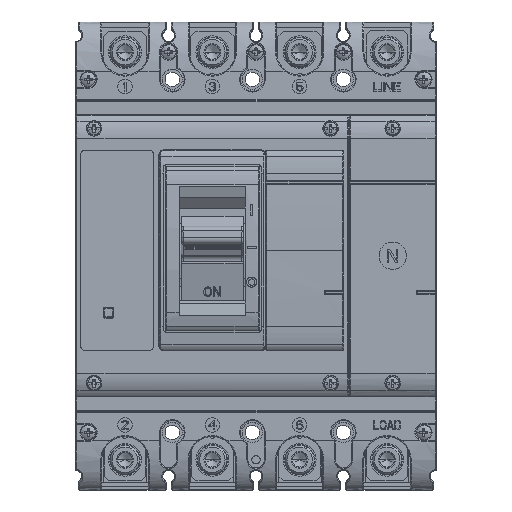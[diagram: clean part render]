
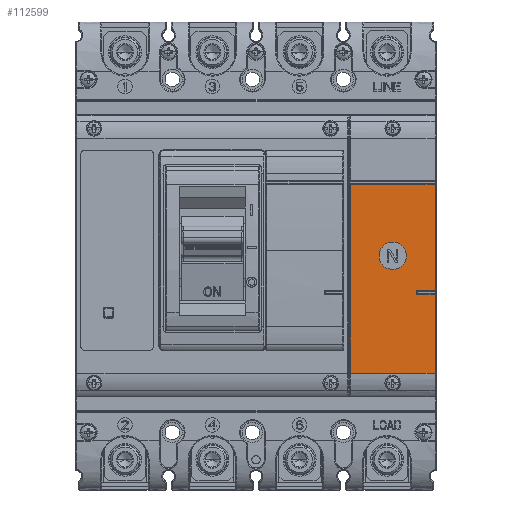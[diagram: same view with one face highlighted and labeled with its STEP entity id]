
A CAD part, top view. The second image highlights one B-rep face of the part: STEP entity #112599.
In plain terms, the highlighted planar face has unit normal (0, 0, 1) as drawn and (0, 1, 0) by its records, which use the part's own axes.
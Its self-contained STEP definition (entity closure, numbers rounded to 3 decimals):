
#4725 = EDGE_LOOP ( 'NONE', ( #172885, #127656 ) ) ;
#7319 = LINE ( 'NONE', #62771, #67969 ) ;
#7338 = EDGE_CURVE ( 'NONE', #140235, #77036, #131188, .T. ) ;
#9113 = CARTESIAN_POINT ( 'NONE',  ( 122.4, 68.7, 64.5 ) ) ;
#9426 = ORIENTED_EDGE ( 'NONE', *, *, #66437, .F. ) ;
#11051 = VERTEX_POINT ( 'NONE', #171427 ) ;
#11657 = CARTESIAN_POINT ( 'NONE',  ( 122.4, 68.7, 19. ) ) ;
#12150 = CARTESIAN_POINT ( 'NONE',  ( 91.6, 68.7, 0. ) ) ;
#12701 = CIRCLE ( 'NONE', #95509, 7.5 ) ;
#15697 = ORIENTED_EDGE ( 'NONE', *, *, #28709, .T. ) ;
#16244 = AXIS2_PLACEMENT_3D ( 'NONE', #117256, #77071, #63651 ) ;
#16888 = DIRECTION ( 'NONE',  ( 0., 1., 0. ) ) ;
#19329 = EDGE_CURVE ( 'NONE', #11051, #159546, #62112, .T. ) ;
#25778 = CARTESIAN_POINT ( 'NONE',  ( 75.8, 68.7, 64.5 ) ) ;
#27378 = EDGE_CURVE ( 'NONE', #151922, #47466, #78598, .T. ) ;
#27772 = CARTESIAN_POINT ( 'NONE',  ( 122.4, 68.7, 19. ) ) ;
#28709 = EDGE_CURVE ( 'NONE', #125269, #151922, #111811, .T. ) ;
#29571 = LINE ( 'NONE', #84114, #92814 ) ;
#29577 = CARTESIAN_POINT ( 'NONE',  ( 75.8, 68.7, 64.5 ) ) ;
#30438 = DIRECTION ( 'NONE',  ( -1., 0., 0. ) ) ;
#30850 = VECTOR ( 'NONE', #91553, 1000. ) ;
#37799 = VECTOR ( 'NONE', #119781, 1000. ) ;
#39891 = AXIS2_PLACEMENT_3D ( 'NONE', #112506, #16888, #84824 ) ;
#47466 = VERTEX_POINT ( 'NONE', #169809 ) ;
#50919 = ORIENTED_EDGE ( 'NONE', *, *, #19329, .F. ) ;
#52767 = LINE ( 'NONE', #11657, #37799 ) ;
#55373 = EDGE_CURVE ( 'NONE', #163269, #119691, #7319, .T. ) ;
#56416 = DIRECTION ( 'NONE',  ( 0., 0., 1. ) ) ;
#57239 = LINE ( 'NONE', #84913, #122008 ) ;
#60388 = VECTOR ( 'NONE', #98393, 1000. ) ;
#62112 = LINE ( 'NONE', #171055, #30850 ) ;
#62181 = VECTOR ( 'NONE', #93400, 1000. ) ;
#62771 = CARTESIAN_POINT ( 'NONE',  ( 122.4, 68.7, 19. ) ) ;
#63651 = DIRECTION ( 'NONE',  ( 1., 0., 0. ) ) ;
#66437 = EDGE_CURVE ( 'NONE', #117310, #119691, #173788, .T. ) ;
#67157 = CARTESIAN_POINT ( 'NONE',  ( 106.6, 68.7, 0. ) ) ;
#67691 = CARTESIAN_POINT ( 'NONE',  ( 75.8, 68.7, -39.3 ) ) ;
#67969 = VECTOR ( 'NONE', #91309, 1000. ) ;
#68642 = EDGE_LOOP ( 'NONE', ( #102862, #84729, #9426, #119555, #15697, #80121, #170867, #50919 ) ) ;
#77036 = VERTEX_POINT ( 'NONE', #12150 ) ;
#77071 = DIRECTION ( 'NONE',  ( 0., 1., 0. ) ) ;
#78598 = LINE ( 'NONE', #99458, #162753 ) ;
#80121 = ORIENTED_EDGE ( 'NONE', *, *, #27378, .T. ) ;
#84114 = CARTESIAN_POINT ( 'NONE',  ( 75.8, 68.7, -39.3 ) ) ;
#84729 = ORIENTED_EDGE ( 'NONE', *, *, #55373, .T. ) ;
#84824 = DIRECTION ( 'NONE',  ( 1., 0., 0. ) ) ;
#84913 = CARTESIAN_POINT ( 'NONE',  ( 112.35, 68.7, 21.2 ) ) ;
#89566 = PLANE ( 'NONE',  #16244 ) ;
#91309 = DIRECTION ( 'NONE',  ( 0., 0., -1. ) ) ;
#91553 = DIRECTION ( 'NONE',  ( 0., 0., 1. ) ) ;
#92814 = VECTOR ( 'NONE', #56416, 1000. ) ;
#93400 = DIRECTION ( 'NONE',  ( 1., 0., 0. ) ) ;
#95509 = AXIS2_PLACEMENT_3D ( 'NONE', #97495, #98374, #30438 ) ;
#97495 = CARTESIAN_POINT ( 'NONE',  ( 99.1, 68.7, 0. ) ) ;
#98374 = DIRECTION ( 'NONE',  ( 0., 1., 0. ) ) ;
#98393 = DIRECTION ( 'NONE',  ( 1., 0., 0. ) ) ;
#99458 = CARTESIAN_POINT ( 'NONE',  ( 122.4, 68.7, 64.5 ) ) ;
#99658 = EDGE_CURVE ( 'NONE', #163269, #11051, #52767, .T. ) ;
#100699 = CARTESIAN_POINT ( 'NONE',  ( 112.35, 68.7, 21.2 ) ) ;
#102862 = ORIENTED_EDGE ( 'NONE', *, *, #99658, .F. ) ;
#103831 = FACE_BOUND ( 'NONE', #4725, .T. ) ;
#111811 = LINE ( 'NONE', #29577, #60388 ) ;
#112506 = CARTESIAN_POINT ( 'NONE',  ( 99.1, 68.7, 0. ) ) ;
#112599 = ADVANCED_FACE ( 'NONE', ( #132396, #103831 ), #89566, .T. ) ;
#117256 = CARTESIAN_POINT ( 'NONE',  ( 75.3, 68.7, 64.5 ) ) ;
#117310 = VERTEX_POINT ( 'NONE', #67691 ) ;
#119555 = ORIENTED_EDGE ( 'NONE', *, *, #145465, .T. ) ;
#119691 = VERTEX_POINT ( 'NONE', #119792 ) ;
#119781 = DIRECTION ( 'NONE',  ( -1., 0., 0. ) ) ;
#119792 = CARTESIAN_POINT ( 'NONE',  ( 122.4, 68.7, -39.3 ) ) ;
#122008 = VECTOR ( 'NONE', #125992, 1000. ) ;
#125269 = VERTEX_POINT ( 'NONE', #25778 ) ;
#125992 = DIRECTION ( 'NONE',  ( 1., 0., 0. ) ) ;
#127491 = EDGE_CURVE ( 'NONE', #77036, #140235, #12701, .T. ) ;
#127656 = ORIENTED_EDGE ( 'NONE', *, *, #7338, .F. ) ;
#131188 = CIRCLE ( 'NONE', #39891, 7.5 ) ;
#132396 = FACE_OUTER_BOUND ( 'NONE', #68642, .T. ) ;
#136234 = CARTESIAN_POINT ( 'NONE',  ( 75.8, 68.7, -39.3 ) ) ;
#140235 = VERTEX_POINT ( 'NONE', #67157 ) ;
#145465 = EDGE_CURVE ( 'NONE', #117310, #125269, #29571, .T. ) ;
#149950 = EDGE_CURVE ( 'NONE', #159546, #47466, #57239, .T. ) ;
#151922 = VERTEX_POINT ( 'NONE', #9113 ) ;
#153928 = DIRECTION ( 'NONE',  ( 0., 0., -1. ) ) ;
#159546 = VERTEX_POINT ( 'NONE', #100699 ) ;
#162753 = VECTOR ( 'NONE', #153928, 1000. ) ;
#163269 = VERTEX_POINT ( 'NONE', #27772 ) ;
#169809 = CARTESIAN_POINT ( 'NONE',  ( 122.4, 68.7, 21.2 ) ) ;
#170867 = ORIENTED_EDGE ( 'NONE', *, *, #149950, .F. ) ;
#171055 = CARTESIAN_POINT ( 'NONE',  ( 112.35, 68.7, 19. ) ) ;
#171427 = CARTESIAN_POINT ( 'NONE',  ( 112.35, 68.7, 19. ) ) ;
#172885 = ORIENTED_EDGE ( 'NONE', *, *, #127491, .F. ) ;
#173788 = LINE ( 'NONE', #136234, #62181 ) ;
